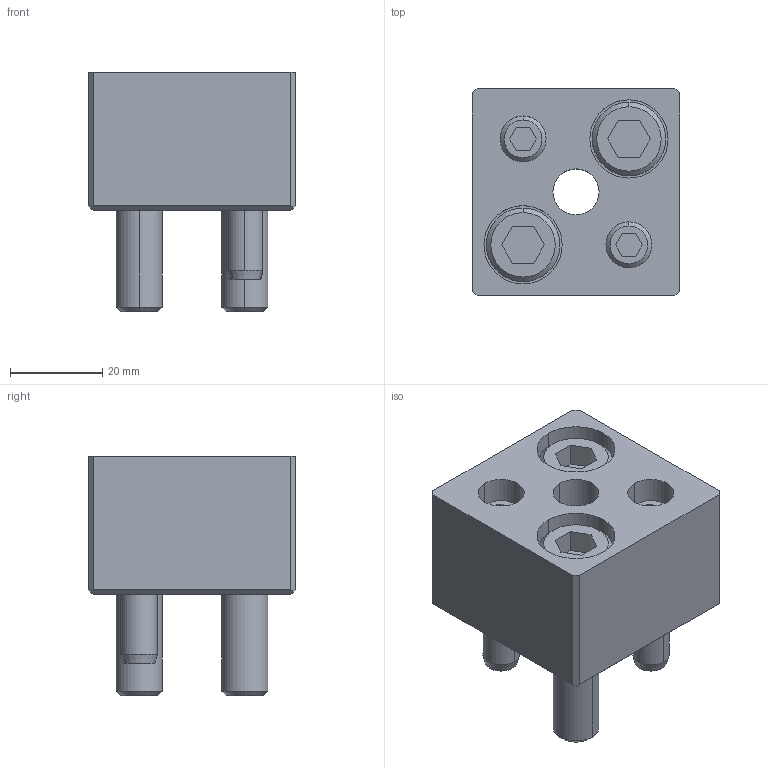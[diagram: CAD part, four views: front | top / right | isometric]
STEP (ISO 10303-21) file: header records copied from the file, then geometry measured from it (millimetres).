
FILE_DESCRIPTION(/* description */ (''),/* implementation_level */ '2;1');
FILE_NAME(/* name */ '3d_mpsr10_04606_r00.stp',/* time_stamp */ '2011-01-10T14:13:29+09:00',/* author */ ('MISUMI'),/* organization */ (''),/* preprocessor_version */ 'ST-DEVELOPER v11',/* originating_system */ 'UGS - NX 5.0',/* authorisation */ '');
FILE_SCHEMA (('CONFIG_CONTROL_DESIGN'));
Length unit declared in the file: millimetre
Products named in the file (1): 3d_mpsr10_04606_r00
Bounding box: 45 x 45 x 52 mm (x, y, z)
Volume: 58717.9 mm3; surface area: 21256.6 mm2
Topology: 7 solids, 7 shells, 139 faces, 306 edges, 196 vertices
Faces by surface type: plane 67, cylinder 46, cone 26
Entity records: 3950 total; most frequent: DIRECTION 698, CARTESIAN_POINT 684, ORIENTED_EDGE 612, EDGE_CURVE 306, AXIS2_PLACEMENT_3D 258, VERTEX_POINT 196, LINE 182, VECTOR 182
